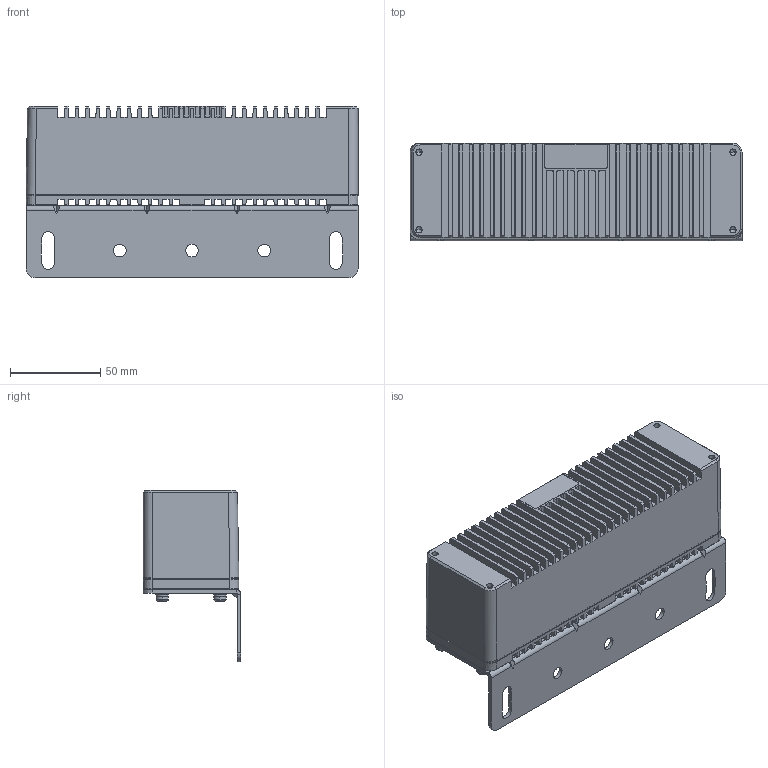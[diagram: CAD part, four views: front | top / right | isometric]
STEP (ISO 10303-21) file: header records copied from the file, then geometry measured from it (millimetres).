
FILE_DESCRIPTION((''),'2;1');
FILE_NAME('DB500S3','2024-07-30T09:37:28',('lizhenhao5'),(''),'CREO PARAMETRIC BY PTC INC, 2020044','CREO PARAMETRIC BY PTC INC, 2020044','');
FILE_SCHEMA(('CONFIG_CONTROL_DESIGN'));
Length unit declared in the file: millimetre
Products named in the file (1): DB500S3
Bounding box: 184 x 54 x 95 mm (x, y, z)
Surface area: 92662.4 mm2 (no closed solid volume)
Topology: 0 solids, 14 shells, 721 faces, 2059 edges, 1360 vertices
Faces by surface type: plane 557, cylinder 106, cone 43, torus 12, bspline 3
Entity records: 23945 total; most frequent: CARTESIAN_POINT 5078, ORIENTED_EDGE 3917, DIRECTION 3734, EDGE_CURVE 2051, VECTOR 1626, LINE 1626, VERTEX_POINT 1360, AXIS2_PLACEMENT_3D 1054
